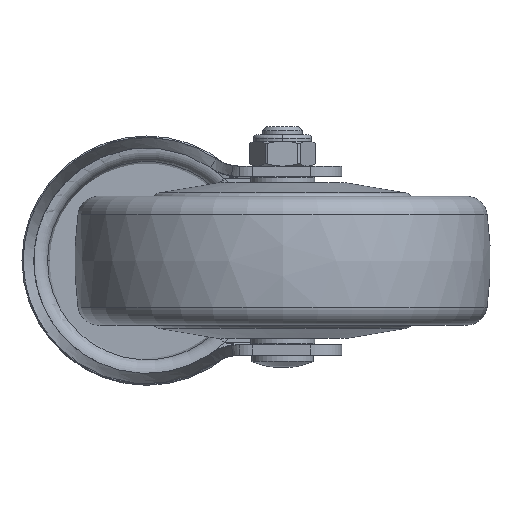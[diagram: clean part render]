
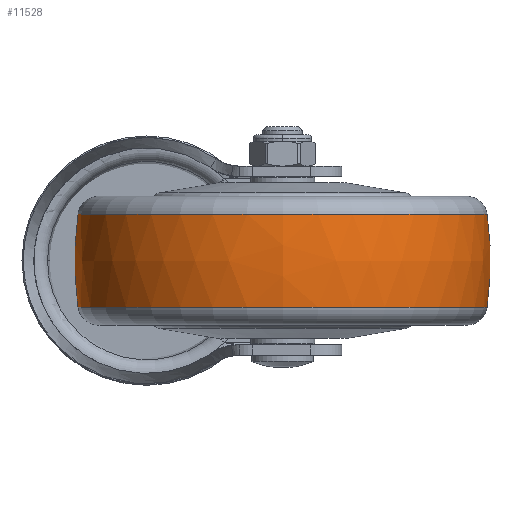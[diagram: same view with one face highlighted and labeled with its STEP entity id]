
A CAD part, front view. The second image highlights one B-rep face of the part: STEP entity #11528.
In plain terms, the highlighted free-form (B-spline) face has degree [3, 3] with [7, 4] control points.
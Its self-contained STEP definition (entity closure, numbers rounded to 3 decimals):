
#10839=CARTESIAN_POINT('',(-11.2,0.,0.));
#10840=DIRECTION('',(-1.,0.,0.));
#10841=DIRECTION('',(0.,1.,0.));
#10842=AXIS2_PLACEMENT_3D('',#10839,#10840,#10841);
#10854=CARTESIAN_POINT('',(0.,-30.,0.));
#10855=DIRECTION('',(0.,0.,1.));
#10856=DIRECTION('',(0.14,0.99,0.));
#10857=AXIS2_PLACEMENT_3D('',#10854,#10855,#10856);
#10859=CARTESIAN_POINT('',(0.,30.,0.));
#10860=DIRECTION('',(0.,0.,-1.));
#10861=DIRECTION('',(0.14,-0.99,0.));
#10862=AXIS2_PLACEMENT_3D('',#10859,#10860,#10861);
#10864=CARTESIAN_POINT('',(11.2,0.,0.));
#10865=DIRECTION('',(-1.,0.,0.));
#10866=DIRECTION('',(0.,1.,0.));
#10867=AXIS2_PLACEMENT_3D('',#10864,#10865,#10866);
#11102=CARTESIAN_POINT('',(11.2,49.212,0.));
#11104=VERTEX_POINT('',#11102);
#11105=CARTESIAN_POINT('',(-11.2,49.212,0.));
#11106=VERTEX_POINT('',#11105);
#11150=CARTESIAN_POINT('',(11.2,-49.212,
0.));
#11152=VERTEX_POINT('',#11150);
#11153=CARTESIAN_POINT('',(-11.2,-49.212,
0.));
#11154=VERTEX_POINT('',#11153);
#11492=CARTESIAN_POINT('',(-11.645,-49.051,
3.086));
#11493=CARTESIAN_POINT('',(-3.909,-50.187,
3.157));
#11494=CARTESIAN_POINT('',(3.909,-50.187,
3.157));
#11495=CARTESIAN_POINT('',(11.645,-49.051,
3.086));
#11496=CARTESIAN_POINT('',(-11.645,-50.95,
-27.1));
#11497=CARTESIAN_POINT('',(-3.909,-52.13,
-27.727));
#11498=CARTESIAN_POINT('',(3.909,-52.13,
-27.727));
#11499=CARTESIAN_POINT('',(11.645,-50.95,
-27.1));
#11500=CARTESIAN_POINT('',(-11.645,-30.246,
-49.148));
#11501=CARTESIAN_POINT('',(-3.909,-30.946,
-50.286));
#11502=CARTESIAN_POINT('',(3.909,-30.946,
-50.286));
#11503=CARTESIAN_POINT('',(11.645,-30.246,
-49.148));
#11504=CARTESIAN_POINT('',(-11.645,0.,
-49.148));
#11505=CARTESIAN_POINT('',(-3.909,0.,
-50.286));
#11506=CARTESIAN_POINT('',(3.909,0.,-50.286));
#11507=CARTESIAN_POINT('',(11.645,0.,
-49.148));
#11508=CARTESIAN_POINT('',(-11.645,30.246,
-49.148));
#11509=CARTESIAN_POINT('',(-3.909,30.946,
-50.286));
#11510=CARTESIAN_POINT('',(3.909,30.946,
-50.286));
#11511=CARTESIAN_POINT('',(11.645,30.246,
-49.148));
#11512=CARTESIAN_POINT('',(-11.645,50.95,
-27.1));
#11513=CARTESIAN_POINT('',(-3.909,52.13,
-27.727));
#11514=CARTESIAN_POINT('',(3.909,52.13,
-27.727));
#11515=CARTESIAN_POINT('',(11.645,50.95,
-27.1));
#11516=CARTESIAN_POINT('',(-11.645,49.051,
3.086));
#11517=CARTESIAN_POINT('',(-3.909,50.187,
3.157));
#11518=CARTESIAN_POINT('',(3.909,50.187,3.157));
#11519=CARTESIAN_POINT('',(11.645,49.051,3.086));
#11520=(BOUNDED_SURFACE()B_SPLINE_SURFACE(3,3,((#11492,#11493,#11494,#11495),(
#11496,#11497,#11498,#11499),(#11500,#11501,#11502,#11503),(#11504,#11505,
#11506,#11507),(#11508,#11509,#11510,#11511),(#11512,#11513,#11514,#11515),(
#11516,#11517,#11518,#11519)),.UNSPECIFIED.,.F.,.F.,.F.)B_SPLINE_SURFACE_WITH_KNOTS((4,3,4),(4,4),(0.,1.,2.),(0.,1.),.UNSPECIFIED.)GEOMETRIC_REPRESENTATION_ITEM()RATIONAL_B_SPLINE_SURFACE(((1.194,1.185,
1.185,1.194),(0.943,0.936,
0.936,0.943),(0.943,0.936,
0.936,0.943),(1.194,1.185,
1.185,1.194),(0.943,0.936,
0.936,0.943),(0.943,0.936,
0.936,0.943),(1.194,1.185,
1.185,1.194)))REPRESENTATION_ITEM('')SURFACE());
#11521=ORIENTED_EDGE('',*,*,#11482,.T.);
#11522=ORIENTED_EDGE('',*,*,#11435,.T.);
#11523=ORIENTED_EDGE('',*,*,#11486,.F.);
#11525=ORIENTED_EDGE('',*,*,#11524,.F.);
#11526=EDGE_LOOP('',(#11521,#11522,#11523,#11525));
#11527=FACE_OUTER_BOUND('',#11526,.F.);
#10843=CIRCLE('',#10842,49.212);
#10858=CIRCLE('',#10857,80.);
#10863=CIRCLE('',#10862,80.);
#10868=CIRCLE('',#10867,49.212);
#11435=EDGE_CURVE('',#11106,#11154,#10843,.T.);
#11482=EDGE_CURVE('',#11104,#11106,#10858,.T.);
#11486=EDGE_CURVE('',#11152,#11154,#10863,.T.);
#11524=EDGE_CURVE('',#11104,#11152,#10868,.T.);
#11528=ADVANCED_FACE('',(#11527),#11520,.T.);
